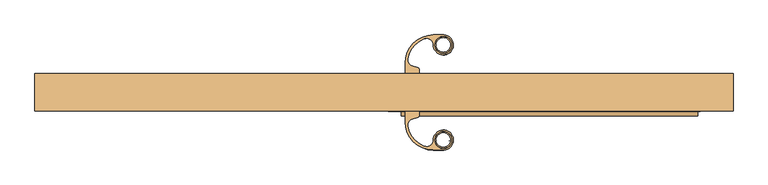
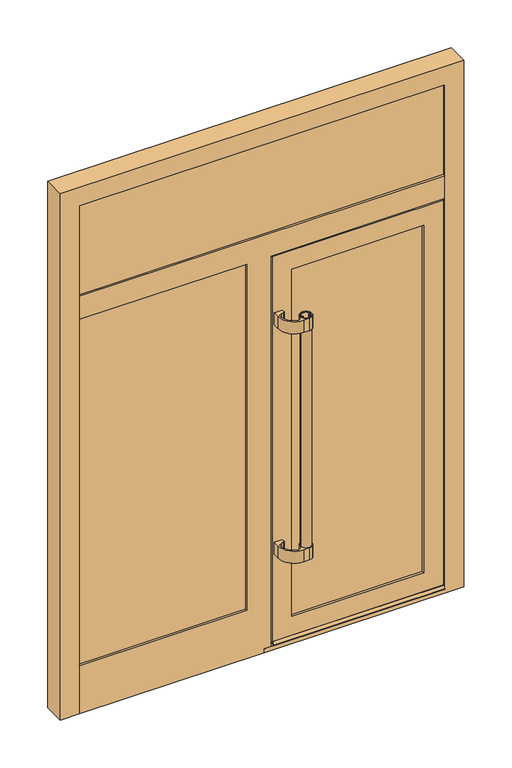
"""IFC4 building model written with IfcOpenShell, lengths in millimetres: door geometry, Vrata s nadsvjetlom i fiksnim dijelom : Vrata s nadsvjetlom i fiksnim dijelom."""

from ifc_helpers import new_model, si_unit, point, frame, frame_2d, origin, place, context, project, spatial, polyline, circle_curve, trimmed, segment, composite_curve, outline, extrude, faceted_brep, source, transform, mapped, element, save
from ifc_brep_helpers import plane_surface, cylinder_surface, advanced_brep


def door_937ee947(model_context):
    return source(origin(), model_context, "Body", "SolidModel", [
        extrude(outline(composite_curve([segment(trimmed(circle_curve(frame_2d((134.2968775, -125.4548223)), 19.0), [point((115.2968775, -125.4548223))], [point((153.2968775, -125.4548223))], False, "CARTESIAN"), True, "CONTINUOUS"), segment(trimmed(circle_curve(frame_2d((134.2968775, -125.4548223)), 19.0), [point((153.2968775, -125.4548223))], [point((115.2968775, -125.4548223))], False, "CARTESIAN"), True, "CONTINUOUS")], self_intersect=False), holes=[composite_curve([segment(polyline([(120.932893, -126.5508378), (122.0794943, -126.5508378), (122.0794943, -127.5219871)]), True, "CONTINUOUS"), segment(trimmed(circle_curve(frame_2d((119.8368775, -125.4548223)), 3.05), [point((122.0794943, -127.5219871))], [point((119.8368775, -128.5048223))], False, "CARTESIAN"), True, "CONTINUOUS"), segment(polyline([(119.8368775, -128.5048223), (118.5902706, -128.5048223)]), True, "CONTINUOUS"), segment(trimmed(circle_curve(frame_2d((134.2968775, -125.4548223)), 16.0), [point((118.5902706, -128.5048223))], [point((150.0034844, -128.5048223))], True, "CARTESIAN"), True, "CONTINUOUS"), segment(polyline([(150.0034844, -128.5048223), (148.7968775, -128.5048223)]), True, "CONTINUOUS"), segment(trimmed(circle_curve(frame_2d((148.7968775, -125.4548223)), 3.05), [point((148.7968775, -128.5048223))], [point((146.5542607, -127.5219871))], False, "CARTESIAN"), True, "CONTINUOUS"), segment(polyline([(146.5542607, -127.5219871), (146.5542607, -126.5508378), (147.700862, -126.5508378)]), True, "CONTINUOUS"), segment(trimmed(circle_curve(frame_2d((148.7968775, -125.4548223)), 1.55), [point((147.700862, -126.5508378))], [point((147.700862, -124.3588068))], True, "CARTESIAN"), True, "CONTINUOUS"), segment(polyline([(147.700862, -124.3588068), (146.5542607, -124.3588068), (146.5542607, -123.3876576)]), True, "CONTINUOUS"), segment(trimmed(circle_curve(frame_2d((148.7968775, -125.4548223)), 3.05), [point((146.5542607, -123.3876576))], [point((148.7968775, -122.4048223))], False, "CARTESIAN"), True, "CONTINUOUS"), segment(polyline([(148.7968775, -122.4048223), (150.0034844, -122.4048223)]), True, "CONTINUOUS"), segment(trimmed(circle_curve(frame_2d((134.2968775, -125.4548223)), 16.0), [point((150.0034844, -122.4048223))], [point((118.5902706, -122.4048223))], True, "CARTESIAN"), True, "CONTINUOUS"), segment(polyline([(118.5902706, -122.4048223), (119.8368775, -122.4048223)]), True, "CONTINUOUS"), segment(trimmed(circle_curve(frame_2d((119.8368775, -125.4548223)), 3.05), [point((119.8368775, -122.4048223))], [point((122.0794943, -123.3876576))], False, "CARTESIAN"), True, "CONTINUOUS"), segment(polyline([(122.0794943, -123.3876576), (122.0794943, -124.3588068), (120.932893, -124.3588068)]), True, "CONTINUOUS"), segment(trimmed(circle_curve(frame_2d((119.8368775, -125.4548223)), 1.55), [point((120.932893, -124.3588068))], [point((120.932893, -126.5508378))], True, "CARTESIAN"), True, "CONTINUOUS")], self_intersect=False)]), frame((0.0, 0.0, 403.625), z_axis=(0.0, 0.0, 1.0), x_axis=(1.0, 0.0, 0.0)), (0.0, 0.0, 1.0), 1000.0),
        extrude(outline(composite_curve([segment(polyline([(52.7500004, -60.0070601), (79.7500004, -60.0070601), (79.7500004, -69.3089889)]), True, "CONTINUOUS"), segment(trimmed(circle_curve(frame_2d((74.7500004, -69.3089889)), 5.0), [point((79.7500004, -69.3089889))], [point((76.0440956, -74.1386181))], False, "CARTESIAN"), True, "CONTINUOUS"), segment(polyline([(76.0440956, -74.1386181), (64.5137484, -77.2281653)]), True, "CONTINUOUS"), segment(trimmed(circle_curve(frame_2d((68.3970217, -91.7207385)), 15.0038159), [point((64.5137484, -77.2281653))], [point((53.6821544, -94.6511262))], True, "CARTESIAN"), True, "CONTINUOUS"), segment(trimmed(circle_curve(frame_2d((111.6776631, -84.2655205)), 58.9180773), [point((53.6821544, -94.6511262))], [point((91.3790237, -139.5765056))], True, "CARTESIAN"), True, "CONTINUOUS"), segment(trimmed(circle_curve(frame_2d((96.5468858, -125.4947959)), 15.0000449), [point((91.3790237, -139.5765056))], [point((111.5468775, -125.4548223))], True, "CARTESIAN"), True, "CONTINUOUS"), segment(trimmed(circle_curve(frame_2d((134.1785101, -125.3945111)), 22.631713), [point((111.5468775, -125.4548223))], [point((120.924763, -107.0496857))], False, "CARTESIAN"), True, "CONTINUOUS"), segment(trimmed(circle_curve(frame_2d((134.291819, -125.5513446)), 22.8251959), [point((120.924763, -107.0496857))], [point((149.5195988, -108.5482775))], False, "CARTESIAN"), True, "CONTINUOUS"), segment(trimmed(circle_curve(frame_2d((134.3746147, -125.4588964)), 22.7010919), [point((149.5195988, -108.5482775))], [point((147.668992, -143.8599589))], False, "CARTESIAN"), True, "CONTINUOUS"), segment(trimmed(circle_curve(frame_2d((134.2327331, -125.2625146)), 22.9433648), [point((147.668992, -143.8599589))], [point((134.6511782, -148.2020633))], False, "CARTESIAN"), True, "CONTINUOUS"), segment(polyline([(134.6511782, -148.2020633), (111.7472413, -148.2020633)]), True, "CONTINUOUS"), segment(trimmed(circle_curve(frame_2d((111.7472413, -84.2048223)), 63.997241), [point((111.7472413, -148.2020633))], [point((47.7500004, -84.2048223))], False, "CARTESIAN"), True, "CONTINUOUS"), segment(polyline([(47.7500004, -84.2048223), (47.7500004, -60.0070601), (52.7500004, -60.0070601)]), True, "CONTINUOUS")], self_intersect=False), holes=[composite_curve([segment(trimmed(circle_curve(frame_2d((134.2968775, -125.4548223)), 19.25), [point((115.0468775, -125.4548223))], [point((153.5468775, -125.4548223))], True, "CARTESIAN"), True, "CONTINUOUS"), segment(trimmed(circle_curve(frame_2d((134.2968775, -125.4548223)), 19.25), [point((153.5468775, -125.4548223))], [point((115.0468775, -125.4548223))], True, "CARTESIAN"), True, "CONTINUOUS")], self_intersect=False)]), frame((0.0, 0.0, 1353.625), z_axis=(0.0, 0.0, 1.0), x_axis=(1.0, 0.0, 0.0)), (0.0, 0.0, 1.0), 50.0),
        extrude(outline(composite_curve([segment(polyline([(52.7500004, -60.0070601), (79.7500004, -60.0070601), (79.7500004, -69.3089889)]), True, "CONTINUOUS"), segment(trimmed(circle_curve(frame_2d((74.7500004, -69.3089889)), 5.0), [point((79.7500004, -69.3089889))], [point((76.0440956, -74.1386181))], False, "CARTESIAN"), True, "CONTINUOUS"), segment(polyline([(76.0440956, -74.1386181), (64.5137484, -77.2281653)]), True, "CONTINUOUS"), segment(trimmed(circle_curve(frame_2d((68.3970217, -91.7207385)), 15.0038159), [point((64.5137484, -77.2281653))], [point((53.6821544, -94.6511262))], True, "CARTESIAN"), True, "CONTINUOUS"), segment(trimmed(circle_curve(frame_2d((111.6776631, -84.2655205)), 58.9180773), [point((53.6821544, -94.6511262))], [point((91.3790237, -139.5765056))], True, "CARTESIAN"), True, "CONTINUOUS"), segment(trimmed(circle_curve(frame_2d((96.5468858, -125.4947959)), 15.0000449), [point((91.3790237, -139.5765056))], [point((111.5468775, -125.4548223))], True, "CARTESIAN"), True, "CONTINUOUS"), segment(trimmed(circle_curve(frame_2d((134.1785101, -125.3945111)), 22.631713), [point((111.5468775, -125.4548223))], [point((120.924763, -107.0496857))], False, "CARTESIAN"), True, "CONTINUOUS"), segment(trimmed(circle_curve(frame_2d((134.291819, -125.5513446)), 22.8251959), [point((120.924763, -107.0496857))], [point((149.5195988, -108.5482775))], False, "CARTESIAN"), True, "CONTINUOUS"), segment(trimmed(circle_curve(frame_2d((134.3746147, -125.4588964)), 22.7010919), [point((149.5195988, -108.5482775))], [point((147.668992, -143.8599589))], False, "CARTESIAN"), True, "CONTINUOUS"), segment(trimmed(circle_curve(frame_2d((134.2327331, -125.2625146)), 22.9433648), [point((147.668992, -143.8599589))], [point((134.6511782, -148.2020633))], False, "CARTESIAN"), True, "CONTINUOUS"), segment(polyline([(134.6511782, -148.2020633), (111.7472413, -148.2020633)]), True, "CONTINUOUS"), segment(trimmed(circle_curve(frame_2d((111.7472413, -84.2048223)), 63.997241), [point((111.7472413, -148.2020633))], [point((47.7500004, -84.2048223))], False, "CARTESIAN"), True, "CONTINUOUS"), segment(polyline([(47.7500004, -84.2048223), (47.7500004, -60.0070601), (52.7500004, -60.0070601)]), True, "CONTINUOUS")], self_intersect=False), holes=[composite_curve([segment(trimmed(circle_curve(frame_2d((134.2968775, -125.4548223)), 19.25), [point((115.0468775, -125.4548223))], [point((153.5468775, -125.4548223))], True, "CARTESIAN"), True, "CONTINUOUS"), segment(trimmed(circle_curve(frame_2d((134.2968775, -125.4548223)), 19.25), [point((153.5468775, -125.4548223))], [point((115.0468775, -125.4548223))], True, "CARTESIAN"), True, "CONTINUOUS")], self_intersect=False)]), frame((0.0, 0.0, 403.625), z_axis=(0.0, 0.0, 1.0), x_axis=(1.0, 0.0, 0.0)), (0.0, 0.0, 1.0), 50.0),
        extrude(outline(composite_curve([segment(trimmed(circle_curve(frame_2d((134.2968775, 90.4477622)), 19.0), [point((115.2968775, 90.4477622))], [point((153.2968775, 90.4477622))], False, "CARTESIAN"), True, "CONTINUOUS"), segment(trimmed(circle_curve(frame_2d((134.2968775, 90.4477622)), 19.0), [point((153.2968775, 90.4477622))], [point((115.2968775, 90.4477622))], False, "CARTESIAN"), True, "CONTINUOUS")], self_intersect=False), holes=[composite_curve([segment(trimmed(circle_curve(frame_2d((119.8368775, 90.4477622)), 1.55), [point((120.932893, 91.5437777))], [point((120.932893, 89.3517467))], True, "CARTESIAN"), True, "CONTINUOUS"), segment(polyline([(120.932893, 89.3517467), (122.0794943, 89.3517467), (122.0794943, 88.3805975)]), True, "CONTINUOUS"), segment(trimmed(circle_curve(frame_2d((119.8368775, 90.4477622)), 3.05), [point((122.0794943, 88.3805975))], [point((119.8368775, 87.3977622))], False, "CARTESIAN"), True, "CONTINUOUS"), segment(polyline([(119.8368775, 87.3977622), (118.5902706, 87.3977622)]), True, "CONTINUOUS"), segment(trimmed(circle_curve(frame_2d((134.2968775, 90.4477622)), 16.0), [point((118.5902706, 87.3977622))], [point((150.0034844, 87.3977622))], True, "CARTESIAN"), True, "CONTINUOUS"), segment(polyline([(150.0034844, 87.3977622), (148.7968775, 87.3977622)]), True, "CONTINUOUS"), segment(trimmed(circle_curve(frame_2d((148.7968775, 90.4477622)), 3.05), [point((148.7968775, 87.3977622))], [point((146.5542607, 88.3805975))], False, "CARTESIAN"), True, "CONTINUOUS"), segment(polyline([(146.5542607, 88.3805975), (146.5542607, 89.3517467), (147.700862, 89.3517467)]), True, "CONTINUOUS"), segment(trimmed(circle_curve(frame_2d((148.7968775, 90.4477622)), 1.55), [point((147.700862, 89.3517467))], [point((147.700862, 91.5437777))], True, "CARTESIAN"), True, "CONTINUOUS"), segment(polyline([(147.700862, 91.5437777), (146.5542607, 91.5437777), (146.5542607, 92.514927)]), True, "CONTINUOUS"), segment(trimmed(circle_curve(frame_2d((148.7968775, 90.4477622)), 3.05), [point((146.5542607, 92.514927))], [point((148.7968775, 93.4977622))], False, "CARTESIAN"), True, "CONTINUOUS"), segment(polyline([(148.7968775, 93.4977622), (150.0034844, 93.4977622)]), True, "CONTINUOUS"), segment(trimmed(circle_curve(frame_2d((134.2968775, 90.4477622)), 16.0), [point((150.0034844, 93.4977622))], [point((118.5902706, 93.4977622))], True, "CARTESIAN"), True, "CONTINUOUS"), segment(polyline([(118.5902706, 93.4977622), (119.8368775, 93.4977622)]), True, "CONTINUOUS"), segment(trimmed(circle_curve(frame_2d((119.8368775, 90.4477622)), 3.05), [point((119.8368775, 93.4977622))], [point((122.0794943, 92.514927))], False, "CARTESIAN"), True, "CONTINUOUS"), segment(polyline([(122.0794943, 92.514927), (122.0794943, 91.5437777), (120.932893, 91.5437777)]), True, "CONTINUOUS")], self_intersect=False)]), frame((0.0, 0.0, 403.625), z_axis=(0.0, 0.0, 1.0), x_axis=(1.0, 0.0, 0.0)), (0.0, 0.0, 1.0), 1000.0),
        extrude(outline(composite_curve([segment(polyline([(52.7500004, 25.0), (47.7500004, 25.0), (47.7500004, 49.1977622)]), True, "CONTINUOUS"), segment(trimmed(circle_curve(frame_2d((111.7472413, 49.1977622)), 63.997241), [point((47.7500004, 49.1977622))], [point((111.7472413, 113.1950032))], False, "CARTESIAN"), True, "CONTINUOUS"), segment(polyline([(111.7472413, 113.1950032), (134.6511782, 113.1950032)]), True, "CONTINUOUS"), segment(trimmed(circle_curve(frame_2d((134.2327331, 90.2554545)), 22.9433648), [point((134.6511782, 113.1950032))], [point((147.668992, 108.8528989))], False, "CARTESIAN"), True, "CONTINUOUS"), segment(trimmed(circle_curve(frame_2d((134.3746147, 90.4518363)), 22.7010919), [point((147.668992, 108.8528989))], [point((149.5195988, 73.5412175))], False, "CARTESIAN"), True, "CONTINUOUS"), segment(trimmed(circle_curve(frame_2d((134.291819, 90.5442845)), 22.8251959), [point((149.5195988, 73.5412175))], [point((120.924763, 72.0426256))], False, "CARTESIAN"), True, "CONTINUOUS"), segment(trimmed(circle_curve(frame_2d((134.1785101, 90.3874511)), 22.631713), [point((120.924763, 72.0426256))], [point((111.5468775, 90.4477622))], False, "CARTESIAN"), True, "CONTINUOUS"), segment(trimmed(circle_curve(frame_2d((96.5468858, 90.4877358)), 15.0000449), [point((111.5468775, 90.4477622))], [point((91.3790237, 104.5694455))], True, "CARTESIAN"), True, "CONTINUOUS"), segment(trimmed(circle_curve(frame_2d((111.6776631, 49.2584604)), 58.9180773), [point((91.3790237, 104.5694455))], [point((53.6821544, 59.6440661))], True, "CARTESIAN"), True, "CONTINUOUS"), segment(trimmed(circle_curve(frame_2d((68.3970217, 56.7136785)), 15.0038159), [point((53.6821544, 59.6440661))], [point((64.5137484, 42.2211052))], True, "CARTESIAN"), True, "CONTINUOUS"), segment(polyline([(64.5137484, 42.2211052), (76.0440956, 39.131558)]), True, "CONTINUOUS"), segment(trimmed(circle_curve(frame_2d((74.7500004, 34.3019289)), 5.0), [point((76.0440956, 39.131558))], [point((79.7500004, 34.3019289))], False, "CARTESIAN"), True, "CONTINUOUS"), segment(polyline([(79.7500004, 34.3019289), (79.7500004, 25.0), (52.7500004, 25.0)]), True, "CONTINUOUS")], self_intersect=False), holes=[composite_curve([segment(trimmed(circle_curve(frame_2d((134.2968775, 90.4477622)), 19.25), [point((115.0468775, 90.4477622))], [point((153.5468775, 90.4477622))], True, "CARTESIAN"), True, "CONTINUOUS"), segment(trimmed(circle_curve(frame_2d((134.2968775, 90.4477622)), 19.25), [point((153.5468775, 90.4477622))], [point((115.0468775, 90.4477622))], True, "CARTESIAN"), True, "CONTINUOUS")], self_intersect=False)]), frame((0.0, 0.0, 1353.625), z_axis=(0.0, 0.0, 1.0), x_axis=(1.0, 0.0, 0.0)), (0.0, 0.0, 1.0), 50.0),
        extrude(outline(composite_curve([segment(polyline([(52.7500004, 25.0), (47.7500004, 25.0), (47.7500004, 49.1977622)]), True, "CONTINUOUS"), segment(trimmed(circle_curve(frame_2d((111.7472413, 49.1977622)), 63.997241), [point((47.7500004, 49.1977622))], [point((111.7472413, 113.1950032))], False, "CARTESIAN"), True, "CONTINUOUS"), segment(polyline([(111.7472413, 113.1950032), (134.6511782, 113.1950032)]), True, "CONTINUOUS"), segment(trimmed(circle_curve(frame_2d((134.2327331, 90.2554545)), 22.9433648), [point((134.6511782, 113.1950032))], [point((147.668992, 108.8528989))], False, "CARTESIAN"), True, "CONTINUOUS"), segment(trimmed(circle_curve(frame_2d((134.3746147, 90.4518363)), 22.7010919), [point((147.668992, 108.8528989))], [point((149.5195988, 73.5412175))], False, "CARTESIAN"), True, "CONTINUOUS"), segment(trimmed(circle_curve(frame_2d((134.291819, 90.5442845)), 22.8251959), [point((149.5195988, 73.5412175))], [point((120.924763, 72.0426256))], False, "CARTESIAN"), True, "CONTINUOUS"), segment(trimmed(circle_curve(frame_2d((134.1785101, 90.3874511)), 22.631713), [point((120.924763, 72.0426256))], [point((111.5468775, 90.4477622))], False, "CARTESIAN"), True, "CONTINUOUS"), segment(trimmed(circle_curve(frame_2d((96.5468858, 90.4877358)), 15.0000449), [point((111.5468775, 90.4477622))], [point((91.3790237, 104.5694455))], True, "CARTESIAN"), True, "CONTINUOUS"), segment(trimmed(circle_curve(frame_2d((111.6776631, 49.2584604)), 58.9180773), [point((91.3790237, 104.5694455))], [point((53.6821544, 59.6440661))], True, "CARTESIAN"), True, "CONTINUOUS"), segment(trimmed(circle_curve(frame_2d((68.3970217, 56.7136785)), 15.0038159), [point((53.6821544, 59.6440661))], [point((64.5137484, 42.2211052))], True, "CARTESIAN"), True, "CONTINUOUS"), segment(polyline([(64.5137484, 42.2211052), (76.0440956, 39.131558)]), True, "CONTINUOUS"), segment(trimmed(circle_curve(frame_2d((74.7500004, 34.3019289)), 5.0), [point((76.0440956, 39.131558))], [point((79.7500004, 34.3019289))], False, "CARTESIAN"), True, "CONTINUOUS"), segment(polyline([(79.7500004, 34.3019289), (79.7500004, 25.0), (52.7500004, 25.0)]), True, "CONTINUOUS")], self_intersect=False), holes=[composite_curve([segment(trimmed(circle_curve(frame_2d((134.2968775, 90.4477622)), 19.25), [point((115.0468775, 90.4477622))], [point((153.5468775, 90.4477622))], True, "CARTESIAN"), True, "CONTINUOUS"), segment(trimmed(circle_curve(frame_2d((134.2968775, 90.4477622)), 19.25), [point((153.5468775, 90.4477622))], [point((115.0468775, 90.4477622))], True, "CARTESIAN"), True, "CONTINUOUS")], self_intersect=False)]), frame((0.0, 0.0, 403.625), z_axis=(0.0, 0.0, 1.0), x_axis=(1.0, 0.0, 0.0)), (0.0, 0.0, 1.0), 50.0),
        faceted_brep([(735.4976674, 25.0, 1663.4976678), (735.4976674, 16.646765, 1663.4976674), (735.4976674, 16.646765, 20.0023326), (735.4976674, 25.0, 20.0023322), (14.25, 25.0, 20.0023322), (14.25, 25.0, 1663.4976678), (633.0017387, 25.0, 1561.0017387), (116.7459291, 25.0, 1561.0017387), (116.7459291, 25.0, 122.4982613), (633.0017387, 25.0, 122.4982613), (14.2500004, 16.646765, 20.0023326), (14.2500004, 16.646765, 1663.4976674), (724.4976674, 16.646765, 31.0023326), (25.2500004, 16.646765, 31.0023326), (25.2500004, 16.646765, 1652.4976674), (724.4976674, 16.646765, 1652.4976674), (633.0017387, -6.5067387, 122.4982613), (633.0017387, -6.5067387, 1561.0017387), (648.0041526, -6.5067387, 1576.0041526), (101.7435152, -6.5067387, 1576.0041526), (101.7435152, -6.5067387, 107.4958474), (648.0041526, -6.5067387, 107.4958474), (116.7459291, -6.5067387, 122.4982613), (116.7459291, -6.5067387, 1561.0017387), (648.0041526, -50.5067387, 107.4958474), (648.0041526, -50.5067387, 1576.0041526), (101.7435152, -50.5067387, 107.4958474), (101.7435152, -50.5067387, 1576.0041526), (633.0017454, -50.5067387, 1561.0017454), (116.7459224, -50.5067387, 1561.0017454), (116.7459224, -50.5067387, 122.4982546), (633.0017454, -50.5067387, 122.4982546), (633.0017454, -59.9999866, 122.4982546), (633.0017454, -59.9999866, 1561.0017454), (710.4976674, -59.9999866, 1638.4976674), (39.2500004, -59.9999866, 1638.4976674), (39.2500004, -59.9999866, 45.0023326), (710.4976674, -59.9999866, 44.9982553), (116.7459224, -59.9999866, 122.4982546), (116.7459224, -59.9999866, 1561.0017454), (710.4976674, -61.5742517, 44.9982553), (710.4976674, -70.0506954, 35.9083823), (710.4976674, -70.0506954, 33.8818501), (710.4976674, -68.5506954, 33.8818501), (710.4976674, -68.5506954, 35.7574003), (710.4976674, -61.0093813, 43.8444697), (710.4976674, -53.8843606, 43.8444697), (710.4976674, -52.7470601, 42.7030483), (710.4976674, -52.7470601, 33.5977735), (710.4976674, -46.614954, 33.5977735), (710.4976674, -47.6474994, 27.9238758), (710.4976674, -45.1528763, 28.3738347), (710.4976674, -41.7431491, 28.6475959), (710.4976674, -42.6770113, 33.5977735), (710.4976674, -39.7470601, 33.5977735), (710.4976674, -39.7470601, 34.844179), (710.4976674, -51.4963512, 34.8482553), (710.4976674, -51.4963512, 1638.4976674), (720.6517447, -51.4963512, 34.8482553), (720.6517447, -51.4963512, 1648.6517447), (29.0959231, -51.4963512, 1648.6517447), (29.0959231, -51.4963512, 34.8482553), (39.2500004, -51.4963512, 34.8482553), (39.2500004, -51.4963512, 1638.4976674), (39.2500004, -39.7470601, 34.8482553), (29.0959231, 14.7996746, 34.8482553), (720.6517447, 14.7996746, 34.8482553), (39.2500004, -39.7470601, 33.5977735), (39.2500004, -42.6770113, 33.5977735), (39.2500004, -41.7431491, 28.6475959), (39.2500004, -45.1528763, 28.3738347), (39.2500004, -47.6474994, 27.9238758), (39.2500004, -46.614954, 33.5977735), (39.2500004, -52.7470601, 33.5977735), (39.2500004, -52.7470601, 42.7030483), (39.2500004, -53.8843606, 43.8444697), (39.2500004, -61.0093813, 43.8444697), (39.2500004, -68.5506954, 35.7574003), (39.2500004, -68.5506954, 33.8818501), (39.2500004, -70.0506954, 33.8818501), (39.2500004, -70.0506954, 35.9083823), (39.2500004, -61.5742517, 44.9982553), (720.6517447, 14.7996746, 1648.6517447), (724.4976674, 14.7996746, 1652.4976674), (25.2500004, 14.7996746, 1652.4976674), (25.2500004, 14.7996746, 31.0023326), (724.4976674, 14.7996746, 31.0023326), (29.0959231, 14.7996746, 1648.6517447)], [[[0, 1, 2, 3]], [[3, 4, 5, 0], [6, 7, 8, 9]], [[2, 10, 4, 3]], [[1, 11, 10, 2], [12, 13, 14, 15]], [[6, 9, 16, 17]], [[18, 19, 20, 21], [16, 22, 23, 17]], [[9, 8, 22, 16]], [[18, 21, 24, 25]], [[24, 26, 27, 25], [28, 29, 30, 31]], [[21, 20, 26, 24]], [[28, 31, 32, 33]], [[34, 35, 36, 37], [32, 38, 39, 33]], [[31, 30, 38, 32]], [[34, 37, 40, 41, 42, 43, 44, 45, 46, 47, 48, 49, 50, 51, 52, 53, 54, 55, 56, 57]], [[56, 58, 59, 60, 61, 62, 63, 57]], [[58, 56, 55, 64, 62, 61, 65, 66]], [[64, 55, 54, 67]], [[67, 54, 53, 68]], [[68, 53, 52, 69]], [[69, 52, 51, 70]], [[70, 51, 50, 71]], [[71, 50, 49, 72]], [[72, 49, 48, 73]], [[73, 48, 47, 74]], [[74, 47, 46, 75]], [[75, 46, 45, 76]], [[76, 45, 44, 77]], [[77, 44, 43, 78]], [[78, 43, 42, 79]], [[79, 42, 41, 80]], [[80, 41, 40, 81]], [[40, 37, 36, 81]], [[59, 58, 66, 82]], [[83, 84, 85, 86], [66, 65, 87, 82]], [[83, 86, 12, 15]], [[86, 85, 13, 12]], [[10, 11, 5, 4]], [[8, 7, 23, 22]], [[20, 19, 27, 26]], [[30, 29, 39, 38]], [[61, 60, 87, 65]], [[63, 62, 64, 67, 68, 69, 70, 71, 72, 73, 74, 75, 76, 77, 78, 79, 80, 81, 36, 35]], [[85, 84, 14, 13]], [[0, 5, 11, 1]], [[17, 23, 7, 6]], [[25, 27, 19, 18]], [[33, 39, 29, 28]], [[57, 63, 35, 34]], [[82, 87, 60, 59]], [[15, 14, 84, 83]]]),
        extrude(outline(polyline([(648.0041526, -6.5067387), (648.0041526, -50.5067387), (101.7435152, -50.5067387), (101.7435152, -6.5067387), (648.0041526, -6.5067387)])), frame((0.0, 0.0, 107.4958474), z_axis=(0.0, 0.0, 1.0), x_axis=(1.0, 0.0, 0.0)), (0.0, 0.0, 1.0), 1468.5083052),
        extrude(outline(polyline([(-731.9999063, -51.4913127), (-731.9999063, -11.50254), (-42.7498254, -11.50254), (-42.7498254, -51.4913127), (-731.9999063, -51.4913127)])), frame((0.0, 0.0, 191.9998283), z_axis=(0.0, 0.0, 1.0), x_axis=(1.0, 0.0, 0.0)), (0.0, 0.0, 1.0), 1469.5001762),
        advanced_brep(
        [(-790.0, -59.9913127, 10.0), (-790.0, 25.0, 10.0), (9.250176, 25.0, 10.0), (9.250176, 16.9995935, 10.0), (740.5000062, 16.9995934, 10.0), (740.5000062, 25.0, 10.0), (790.0, 25.0, 10.0), (790.0, -59.9999629, 10.0), (9.25, -59.9913127, 10.0), (9.25, -59.499963, 10.0), (-715.5001827, -59.499963, 10.0), (-715.5001827, -59.9913127, 10.0), (-715.5001827, -59.9913127, 2115.5001827), (715.5001827, -59.9913127, 2115.5001827), (715.5001826, -59.9913127, 25.696756), (9.25, -59.9913127, 25.6983046), (790.0, -59.9913127, 2190.0), (-790.0, -59.9913127, 2190.0), (-715.5001827, -59.499963, 209.9996501), (-715.5001827, -51.4913127, 209.9996501), (-715.5001827, -51.4913127, 1643.5001836), (-715.5001827, -59.499963, 1643.5001836), (-715.5001827, -59.499963, 1738.4998299), (-715.5001827, -51.4913127, 1738.4998299), (-715.5001827, -51.4913127, 2115.5001827), (-60.7496463, -59.499963, 1643.5000996), (-60.7496463, -59.499963, 209.9996501), (9.25, -59.499963, 25.7869301), (34.25, -59.499963, 25.7869301), (34.25, -59.499963, 1643.5001836), (715.5001827, -59.499963, 1643.5), (715.5001827, -59.499963, 1738.4996463), (790.0, 25.0, 2190.0), (740.5000062, 25.0, 1668.499824), (9.25, 25.0, 1668.499824), (-790.0, 25.0, 2190.0), (-718.4799018, 25.0, 2118.4799018), (-718.4799018, 25.0, 1735.499191), (718.4799018, 25.0, 1735.4998299), (718.4799018, 25.0, 2118.4799018), (-718.4799018, 25.0, 1646.5), (-718.4799018, 25.0, 206.9998328), (-57.7498299, 25.0, 206.9998328), (-57.7498299, 25.0, 1646.5), (740.5000062, 16.9995934, 1668.499824), (9.25, 16.9995934, 1668.499824), (731.0000063, 16.9995934, 1658.999839), (18.750161, 16.9995934, 1658.999839), (18.750161, 16.9995934, 25.5020091), (731.0000063, 16.9995934, 25.5020091), (-57.7498299, -11.50254, 206.9998328), (-57.7498299, -11.50254, 1646.5), (-718.4799018, -11.50254, 206.9998328), (-718.4799018, -11.50254, 2118.4799018), (-718.4799018, -11.50254, 1735.499191), (-718.4799018, -11.50254, 1646.5), (715.5001827, -51.493119, 27.2311365), (731.0000063, -51.4913127, 27.2314623), (731.0000063, -45.1370596, 28.3775885), (18.750161, -45.1370596, 28.3775885), (18.750161, -51.4983528, 27.2301925), (34.25, -51.4913127, 27.2314623), (715.5001827, -51.4913127, 2115.5001827), (715.5001827, -51.4916494, 1738.4996463), (715.5001827, -51.4917342, 1643.5), (34.25, -51.4913127, 1643.5000874), (18.750161, -51.4913127, 1658.999839), (731.0000063, -51.4913127, 1658.999839), (-42.7498254, -51.4913127, 1661.5000045), (-42.7498254, -51.4913127, 191.9998283), (-731.9999063, -51.4913127, 191.9998283), (-731.9999063, -51.4913127, 1661.5000045), (-60.7496463, -51.4913127, 209.9996501), (-60.7496463, -51.4913127, 1643.5000996), (731.9999063, -51.4913127, 2131.9999063), (731.9999063, -51.4913127, 1720.4998254), (-731.9999063, -51.4913127, 1720.5000074), (-731.9999063, -51.4913127, 2131.9999063), (731.0000063, -16.0836761, 25.5020091), (731.0000063, -22.8330246, 29.5983726), (731.0000063, -24.6466293, 30.02273), (18.750161, -24.6466293, 30.02273), (18.750161, -22.8330246, 29.5983726), (18.750161, -16.0836761, 25.5020091), (-731.9999063, -11.50254, 1720.5000074), (-731.9999063, -11.50254, 2131.9999063), (-731.9999063, -11.50254, 191.9998283), (-731.9999063, -11.50254, 1661.5000045), (-42.7498254, -11.50254, 191.9998283), (-42.7498254, -11.50254, 1661.5000045), (731.9999063, -11.50254, 1720.4998254), (731.9999063, -11.50254, 2131.9999063), (718.4799018, -11.50254, 2118.4799018), (718.4799018, -11.50254, 1735.4998299)],
        [
            (0, 1),
            (1, 2),
            (2, 3),
            (3, 4),
            (4, 5),
            (5, 6),
            (6, 7),
            (7, 8),
            (8, 9),
            (9, 10),
            (10, 11),
            (11, 0),
            (11, 12),
            (12, 13),
            (13, 14),
            (14, 15),
            (15, 8),
            (7, 16),
            (16, 17),
            (17, 0),
            (10, 18),
            (18, 19),
            (19, 20),
            (20, 21),
            (21, 22),
            (22, 23),
            (23, 24),
            (24, 12),
            (21, 25),
            (25, 26),
            (26, 18),
            (9, 27),
            (27, 28),
            (28, 29),
            (29, 30),
            (30, 31),
            (31, 22),
            (15, 27),
            (6, 32),
            (32, 16),
            (5, 33),
            (33, 34),
            (34, 2),
            (1, 35),
            (35, 32),
            (36, 37),
            (37, 38),
            (38, 39),
            (39, 36),
            (40, 41),
            (41, 42),
            (42, 43),
            (43, 40),
            (44, 33),
            (4, 44),
            (3, 45),
            (45, 44),
            (46, 47),
            (47, 48),
            (48, 49),
            (49, 46),
            (34, 45),
            (17, 35),
            (42, 50),
            (50, 51),
            (51, 43),
            (41, 52),
            (52, 50),
            (53, 54),
            (54, 37),
            (36, 53),
            (55, 52),
            (40, 55),
            (14, 56),
            (56, 57),
            (57, 58),
            (58, 59),
            (59, 60),
            (60, 61),
            (61, 28),
            (62, 63),
            (63, 31),
            (30, 64),
            (64, 56),
            (13, 62),
            (65, 61),
            (60, 66),
            (66, 67),
            (67, 57),
            (64, 65),
            (68, 69),
            (69, 70),
            (70, 71),
            (71, 68),
            (19, 72),
            (72, 73),
            (73, 20),
            (74, 75),
            (75, 76),
            (76, 77),
            (77, 74),
            (23, 63),
            (62, 24),
            (26, 72),
            (49, 78),
            (78, 79),
            (79, 80, circle_curve(frame((731.0000063, -24.389555, 27.0337648), z_axis=(1.0, 0.0, 0.0), x_axis=(0.0, 0.5188434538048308, 0.8548692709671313)), 3.0)),
            (80, 58),
            (67, 46),
            (59, 81),
            (81, 82, circle_curve(frame((18.750161, -24.389555, 27.0337648), z_axis=(-1.0, 0.0, 0.0), x_axis=(0.0, 0.5188434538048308, 0.8548692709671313)), 3.0)),
            (82, 83),
            (83, 48),
            (47, 66),
            (65, 29),
            (25, 73),
            (76, 84),
            (84, 85),
            (85, 77),
            (70, 86),
            (86, 87),
            (87, 71),
            (69, 88),
            (88, 86),
            (89, 88),
            (68, 89),
            (84, 90),
            (90, 91),
            (91, 85),
            (92, 93),
            (93, 54),
            (53, 92),
            (89, 87),
            (55, 51),
            (80, 81),
            (79, 82),
            (78, 83),
            (91, 74),
            (39, 92),
            (90, 75),
            (38, 93),
        ],
        [
            plane_surface(frame((-790.0, 25.0, 10.0), z_axis=(0.0, 0.0, -1.0), x_axis=(0.0, 1.0, 0.0))),
            plane_surface(frame((-790.0, -59.9913127, 10.0), z_axis=(0.0, -1.0, 0.0), x_axis=(0.0, 0.0, 1.0))),
            plane_surface(frame((-715.5001827, -59.9913127, 10.0), z_axis=(1.0, 0.0, 0.0), x_axis=(0.0, 0.0, 1.0))),
            plane_surface(frame((-790.0, -59.499963, 1738.4998299), z_axis=(0.0, -1.0, 0.0), x_axis=(1.0, 0.0, 0.0))),
            plane_surface(frame((9.25, -59.9913127, 10.0), z_axis=(-1.0, 0.0, 0.0), x_axis=(0.0, -1.0, 0.0))),
            plane_surface(frame((790.0, 25.0, 2190.0), z_axis=(1.0, 0.0, 0.0), x_axis=(0.0, 0.0, -1.0))),
            plane_surface(frame((-718.4799018, 25.0, 10.0), z_axis=(0.0, 1.0, 0.0), x_axis=(0.0, 0.0, 1.0))),
            plane_surface(frame((740.5000062, 16.9995934, 1668.499824), z_axis=(-1.0, 0.0, 0.0), x_axis=(0.0, 0.0, -1.0))),
            plane_surface(frame((731.0000063, 16.9995934, 1668.499824), z_axis=(0.0, 1.0, 0.0), x_axis=(0.0, 0.0, -1.0))),
            plane_surface(frame((9.25, 25.0, 1646.5), z_axis=(1.0, 0.0, 0.0), x_axis=(0.0, 1.0, 0.0))),
            plane_surface(frame((-790.0, 25.0, 10.0), z_axis=(-1.0, 0.0, 0.0), x_axis=(0.0, 0.0, 1.0))),
            plane_surface(frame((-57.7498299, -11.50254, 1668.499824), z_axis=(-1.0, 0.0, 0.0), x_axis=(0.0, 0.0, -1.0))),
            plane_surface(frame((-790.0, 25.0, 206.9998328), z_axis=(0.0, 0.0, 1.0), x_axis=(1.0, 0.0, 0.0))),
            plane_surface(frame((-718.4799018, -11.50254, 10.0), z_axis=(1.0, 0.0, 0.0), x_axis=(0.0, 0.0, 1.0))),
            plane_surface(frame((9.25, -45.1370596, 28.3775885), z_axis=(0.0, -0.17750711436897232, 0.98411951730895), x_axis=(1.0, 0.0, 0.0))),
            plane_surface(frame((715.5001827, -59.9913127, 2115.5001827), z_axis=(-1.0, 0.0, 0.0), x_axis=(0.0, 0.0, -1.0))),
            plane_surface(frame((-715.5001827, -51.4913127, 10.0), z_axis=(0.0, 1.0, 0.0), x_axis=(0.0, 0.0, 1.0))),
            plane_surface(frame((-790.0, -51.47254, 209.9996501), z_axis=(0.0, 0.0, 1.0), x_axis=(1.0, 0.0, 0.0))),
            plane_surface(frame((731.0000063, -51.4931932, 1668.499824), z_axis=(-1.0, 0.0, 0.0), x_axis=(0.0, 0.0, -1.0))),
            plane_surface(frame((18.750161, 16.9995935, 1668.499824), z_axis=(1.0, 0.0, 0.0), x_axis=(0.0, 0.0, -1.0))),
            plane_surface(frame((34.25, -51.4986586, 1668.499824), z_axis=(1.0, 0.0, 0.0), x_axis=(0.0, 0.0, -1.0))),
            plane_surface(frame((-60.7496463, -59.499963, 1668.499824), z_axis=(-1.0, 0.0, 0.0), x_axis=(0.0, 0.0, -1.0))),
            plane_surface(frame((-731.9999063, -51.4913127, 10.0), z_axis=(1.0, 0.0, 0.0), x_axis=(0.0, 0.0, 1.0))),
            plane_surface(frame((-790.0, -11.50254, 191.9998283), z_axis=(0.0, 0.0, 1.0), x_axis=(1.0, 0.0, 0.0))),
            plane_surface(frame((-42.7498254, -51.50254, 1668.499824), z_axis=(-1.0, 0.0, 0.0), x_axis=(0.0, 0.0, -1.0))),
            plane_surface(frame((-731.9999063, -11.50254, 10.0), z_axis=(0.0, -1.0, 0.0), x_axis=(0.0, 0.0, 1.0))),
            plane_surface(frame((9.25, -24.6466293, 30.02273), z_axis=(0.0, -0.08003075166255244, 0.9967923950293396), x_axis=(1.0, 0.0, 0.0))),
            cylinder_surface(frame((9.25, -24.389555, 27.0337648), z_axis=(-1.0, 0.0, 0.0), x_axis=(0.0, 0.5188434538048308, 0.8548692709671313)), 3.0),
            plane_surface(frame((9.25, -16.0836761, 25.5020091), z_axis=(0.0, 0.5188434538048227, 0.8548692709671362), x_axis=(1.0, 0.0, 0.0))),
            plane_surface(frame((9.25, 17.0039631, 25.5020091), z_axis=(0.0, 0.0, 1.0), x_axis=(1.0, 0.0, 0.0))),
            plane_surface(frame((-790.0, 25.0, 2190.0), z_axis=(0.0, 0.0, 1.0), x_axis=(1.0, 0.0, 0.0))),
            plane_surface(frame((-715.5001827, -59.9913127, 2115.5001827), z_axis=(0.0, 0.0, -1.0), x_axis=(1.0, 0.0, 0.0))),
            plane_surface(frame((-731.9999063, -51.4913127, 2131.9999063), z_axis=(0.0, 0.0, -1.0), x_axis=(1.0, 0.0, 0.0))),
            plane_surface(frame((-718.4799018, -11.50254, 2118.4799018), z_axis=(0.0, 0.0, -1.0), x_axis=(1.0, 0.0, 0.0))),
            plane_surface(frame((790.0, 25.0, 1668.499824), z_axis=(0.0, 0.0, -1.0), x_axis=(0.0, 1.0, 0.0))),
            plane_surface(frame((731.9999063, -51.4913127, 2131.9999063), z_axis=(-1.0, 0.0, 0.0), x_axis=(0.0, 0.0, -1.0))),
            plane_surface(frame((718.4799018, -11.50254, 2118.4799018), z_axis=(-1.0, 0.0, 0.0), x_axis=(0.0, 0.0, -1.0))),
            plane_surface(frame((-790.0, -11.50254, 1646.5), z_axis=(0.0, 0.0, -1.0), x_axis=(1.0, 0.0, 0.0))),
            plane_surface(frame((-790.0, 25.0, 1735.499191), z_axis=(0.0, 0.0, 1.0), x_axis=(1.0, 0.0, 0.0))),
            plane_surface(frame((-790.0, -11.5025513, 1720.5000074), z_axis=(0.0, 0.0, 1.0), x_axis=(1.0, 0.0, 0.0))),
            plane_surface(frame((-790.0, -51.50254, 1738.4998299), z_axis=(0.0, 0.0, 1.0), x_axis=(1.0, 0.0, 0.0))),
            plane_surface(frame((-790.0, -59.499963, 1643.5001836), z_axis=(0.0, 0.0, -1.0), x_axis=(1.0, 0.0, 0.0))),
            plane_surface(frame((-790.0, -51.50254, 1661.5000045), z_axis=(0.0, 0.0, -1.0), x_axis=(1.0, 0.0, 0.0))),
            plane_surface(frame((9.25, -51.4986586, 1658.999839), z_axis=(0.0, 0.0, -1.0), x_axis=(1.0, 0.0, 0.0))),
        ],
        [
            (0, [[1, 2, 3, 4, 5, 6, 7, 8, 9, 10, 11, 12]]),
            (1, [[13, 14, 15, 16, 17, -8, 18, 19, 20, -12]]),
            (2, [[-11, 21, 22, 23, 24, 25, 26, 27, 28, -13]]),
            (3, [[29, 30, 31, -21, -10, 32, 33, 34, 35, 36, 37, -25]]),
            (4, [[38, -32, -9, -17]]),
            (5, [[-7, 39, 40, -18]]),
            (6, [[-39, -6, 41, 42, 43, -2, 44, 45], [46, 47, 48, 49], [50, 51, 52, 53]]),
            (7, [[54, -41, -5, 55]]),
            (8, [[56, 57, -55, -4], [58, 59, 60, 61]]),
            (9, [[-3, -43, 62, -56]]),
            (10, [[-44, -1, -20, 63]]),
            (11, [[-52, 64, 65, 66]]),
            (12, [[67, 68, -64, -51]]),
            (13, [[69, 70, -46, 71]]),
            (13, [[72, -67, -50, 73]]),
            (14, [[74, 75, 76, 77, 78, 79, 80, -33, -38, -16]]),
            (15, [[81, 82, -36, 83, 84, -74, -15, 85]]),
            (16, [[86, -79, 87, 88, 89, -75, -84, 90]]),
            (16, [[91, 92, 93, 94], [-23, 95, 96, 97]]),
            (16, [[98, 99, 100, 101], [-27, 102, -81, 103]]),
            (17, [[-22, -31, 104, -95]]),
            (18, [[-61, 105, 106, 107, 108, -76, -89, 109]]),
            (19, [[-87, -78, 110, 111, 112, 113, -59, 114]]),
            (20, [[-34, -80, -86, 115]]),
            (21, [[-96, -104, -30, 116]]),
            (22, [[-100, 117, 118, 119]]),
            (22, [[-93, 120, 121, 122]]),
            (23, [[-92, 123, 124, -120]]),
            (24, [[125, -123, -91, 126]]),
            (25, [[-118, 127, 128, 129], [130, 131, -69, 132]]),
            (25, [[-121, -124, -125, 133], [-65, -68, -72, 134]]),
            (26, [[-110, -77, -108, 135]]),
            (27, [[-107, 136, -111, -135]]),
            (28, [[-112, -136, -106, 137]]),
            (29, [[-113, -137, -105, -60]]),
            (30, [[-63, -19, -40, -45]]),
            (31, [[-28, -103, -85, -14]]),
            (32, [[-119, -129, 138, -101]]),
            (33, [[139, -132, -71, -49]]),
            (34, [[-57, -62, -42, -54]]),
            (35, [[-128, 140, -98, -138]]),
            (36, [[-48, 141, -130, -139]]),
            (37, [[-53, -66, -134, -73]]),
            (38, [[-131, -141, -47, -70]]),
            (39, [[-99, -140, -127, -117]]),
            (40, [[-37, -82, -102, -26]]),
            (41, [[-97, -116, -29, -24]]),
            (41, [[-35, -115, -90, -83]]),
            (42, [[-133, -126, -94, -122]]),
            (43, [[-88, -114, -58, -109]]),
        ],
    ),
        extrude(outline(polyline([(-731.9999063, -51.4913127), (-731.9999063, -11.50254), (731.9999063, -11.50254), (731.9999063, -51.4913127), (-731.9999063, -51.4913127)])), frame((0.0, 0.0, 1720.5000074), z_axis=(0.0, 0.0, 1.0), x_axis=(1.0, 0.0, 0.0)), (0.0, 0.0, 1.0), 411.4998989),
    ])


if __name__ == "__main__":
    model = new_model("IFC4")
    model_context = context("Model", 3, world=origin())
    ifc_project = project(units=[si_unit("LENGTHUNIT", "METRE", prefix="MILLI")], contexts=[model_context])
    site = spatial("IfcSite", under=ifc_project)
    building = spatial("IfcBuilding", under=site)
    placement = place(None, origin())
    door_shape = door_937ee947(model_context)
    element("IfcDoor", 1, ObjectType="Vrata s nadsvjetlom i fiksnim dijelom : Vrata s nadsvjetlom i fiksnim dijelom", at=placement, inside=building, context=model_context, shape_type="MappedRepresentation", body=[
        mapped(door_shape, transform((0.0, 0.0, 0.0), x_axis=(1.0, 0.0, 0.0), y_axis=(0.0, 1.0, 0.0), z_axis=(0.0, 0.0, 1.0))),
    ])
    save(model, "model.ifc")
